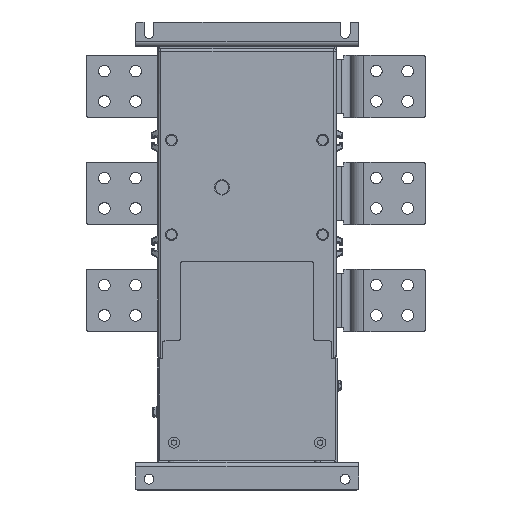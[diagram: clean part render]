
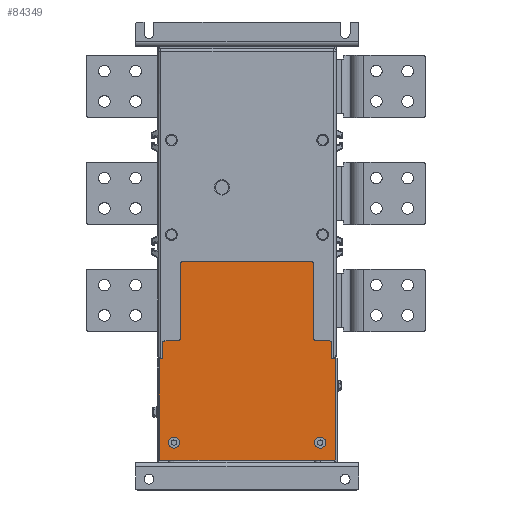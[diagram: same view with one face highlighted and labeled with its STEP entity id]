
A CAD part, top view. The second image highlights one B-rep face of the part: STEP entity #84349.
In plain terms, the highlighted planar face has unit normal (0, 0, 1).
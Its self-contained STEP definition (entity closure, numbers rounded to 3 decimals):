
#81976=DIRECTION('',(0.,-1.,0.));
#81977=VECTOR('',#81976,83.32);
#81978=CARTESIAN_POINT('',(486.803,-164.835,
6.));
#81979=LINE('',#81978,#81977);
#82024=DIRECTION('',(0.,1.,0.));
#82025=VECTOR('',#82024,83.32);
#82026=CARTESIAN_POINT('',(635.992,-248.156,
6.));
#82027=LINE('',#82026,#82025);
#82028=CARTESIAN_POINT('',(489.803,-164.835,
6.));
#82029=DIRECTION('',(0.,0.,-1.));
#82030=DIRECTION('',(-1.,0.,0.));
#82031=AXIS2_PLACEMENT_3D('',#82028,#82029,#82030);
#82033=CARTESIAN_POINT('',(632.992,-164.835,
6.));
#82034=DIRECTION('',(0.,0.,-1.));
#82035=DIRECTION('',(0.,1.,0.));
#82036=AXIS2_PLACEMENT_3D('',#82033,#82034,#82035);
#82038=CARTESIAN_POINT('',(638.992,-248.156,
6.));
#82039=DIRECTION('',(0.,0.,1.));
#82040=DIRECTION('',(-1.,0.,0.));
#82041=AXIS2_PLACEMENT_3D('',#82038,#82039,#82040);
#82043=CARTESIAN_POINT('',(653.498,-253.956,
6.));
#82044=DIRECTION('',(0.,0.,-1.));
#82045=DIRECTION('',(0.,1.,0.));
#82046=AXIS2_PLACEMENT_3D('',#82043,#82044,#82045);
#82048=CARTESIAN_POINT('',(659.148,-384.249,
6.));
#82049=DIRECTION('',(0.,0.,-1.));
#82050=DIRECTION('',(1.,0.,0.));
#82051=AXIS2_PLACEMENT_3D('',#82048,#82049,#82050);
#82053=CARTESIAN_POINT('',(463.648,-384.249,
6.));
#82054=DIRECTION('',(0.,0.,-1.));
#82055=DIRECTION('',(0.,-1.,0.));
#82056=AXIS2_PLACEMENT_3D('',#82053,#82054,#82055);
#82058=CARTESIAN_POINT('',(469.297,-253.956,
6.));
#82059=DIRECTION('',(0.,0.,-1.));
#82060=DIRECTION('',(-1.,0.,0.));
#82061=AXIS2_PLACEMENT_3D('',#82058,#82059,#82060);
#82063=CARTESIAN_POINT('',(483.803,-248.156,
6.));
#82064=DIRECTION('',(0.,0.,1.));
#82065=DIRECTION('',(0.,-1.,0.));
#82066=AXIS2_PLACEMENT_3D('',#82063,#82064,#82065);
#82068=CARTESIAN_POINT('',(479.398,-365.249,
6.));
#82069=DIRECTION('',(0.,0.,1.));
#82070=DIRECTION('',(1.,0.,0.));
#82071=AXIS2_PLACEMENT_3D('',#82068,#82069,#82070);
#82073=CARTESIAN_POINT('',(479.398,-365.249,
6.));
#82074=DIRECTION('',(0.,0.,1.));
#82075=DIRECTION('',(-1.,0.,0.));
#82076=AXIS2_PLACEMENT_3D('',#82073,#82074,#82075);
#82078=CARTESIAN_POINT('',(643.398,-365.249,
6.));
#82079=DIRECTION('',(0.,0.,1.));
#82080=DIRECTION('',(1.,0.,0.));
#82081=AXIS2_PLACEMENT_3D('',#82078,#82079,#82080);
#82083=CARTESIAN_POINT('',(643.398,-365.249,
6.));
#82084=DIRECTION('',(0.,0.,1.));
#82085=DIRECTION('',(-1.,0.,0.));
#82086=AXIS2_PLACEMENT_3D('',#82083,#82084,#82085);
#82096=DIRECTION('',(-1.,0.,0.));
#82097=VECTOR('',#82096,143.189);
#82098=CARTESIAN_POINT('',(632.992,-161.835,
6.));
#82099=LINE('',#82098,#82097);
#82124=DIRECTION('',(-1.,0.,0.));
#82125=VECTOR('',#82124,14.506);
#82126=CARTESIAN_POINT('',(653.498,-251.156,
6.));
#82127=LINE('',#82126,#82125);
#82136=DIRECTION('',(0.,1.,0.));
#82137=VECTOR('',#82136,17.193);
#82138=CARTESIAN_POINT('',(656.298,-271.149,
6.));
#82139=LINE('',#82138,#82137);
#82140=DIRECTION('',(-1.,0.,0.));
#82141=VECTOR('',#82140,3.849);
#82142=CARTESIAN_POINT('',(660.148,-271.149,
6.));
#82143=LINE('',#82142,#82141);
#82160=DIRECTION('',(0.,1.,0.));
#82161=VECTOR('',#82160,113.1);
#82162=CARTESIAN_POINT('',(660.148,-384.249,
6.));
#82163=LINE('',#82162,#82161);
#82363=DIRECTION('',(0.,-1.,0.));
#82364=VECTOR('',#82363,113.1);
#82365=CARTESIAN_POINT('',(462.648,-271.149,
6.));
#82366=LINE('',#82365,#82364);
#82419=DIRECTION('',(-1.,0.,0.));
#82420=VECTOR('',#82419,3.849);
#82421=CARTESIAN_POINT('',(466.497,-271.149,
6.));
#82422=LINE('',#82421,#82420);
#82431=DIRECTION('',(0.,-1.,0.));
#82432=VECTOR('',#82431,17.193);
#82433=CARTESIAN_POINT('',(466.497,-253.956,
6.));
#82434=LINE('',#82433,#82432);
#82451=DIRECTION('',(-1.,0.,0.));
#82452=VECTOR('',#82451,14.506);
#82453=CARTESIAN_POINT('',(483.803,-251.156,
6.));
#82454=LINE('',#82453,#82452);
#82463=DIRECTION('',(1.,0.,0.));
#82464=VECTOR('',#82463,195.5);
#82465=CARTESIAN_POINT('',(463.648,-385.249,
6.));
#82466=LINE('',#82465,#82464);
#83268=CARTESIAN_POINT('',(486.803,-248.156,
6.));
#83269=VERTEX_POINT('',#83268);
#83270=CARTESIAN_POINT('',(483.803,-251.156,
6.));
#83271=VERTEX_POINT('',#83270);
#83276=CARTESIAN_POINT('',(486.803,-164.835,
6.));
#83277=VERTEX_POINT('',#83276);
#83290=CARTESIAN_POINT('',(635.992,-248.156,
6.));
#83291=CARTESIAN_POINT('',(635.992,-164.835,
6.));
#83292=VERTEX_POINT('',#83290);
#83293=VERTEX_POINT('',#83291);
#83294=CARTESIAN_POINT('',(489.803,-161.835,
6.));
#83295=VERTEX_POINT('',#83294);
#83296=CARTESIAN_POINT('',(632.992,-161.835,
6.));
#83297=VERTEX_POINT('',#83296);
#83298=CARTESIAN_POINT('',(638.992,-251.156,
6.));
#83299=VERTEX_POINT('',#83298);
#83300=CARTESIAN_POINT('',(653.498,-251.156,
6.));
#83301=VERTEX_POINT('',#83300);
#83302=CARTESIAN_POINT('',(656.298,-253.956,
6.));
#83303=VERTEX_POINT('',#83302);
#83304=CARTESIAN_POINT('',(656.298,-271.149,
6.));
#83305=VERTEX_POINT('',#83304);
#83306=CARTESIAN_POINT('',(660.148,-271.149,
6.));
#83307=VERTEX_POINT('',#83306);
#83308=CARTESIAN_POINT('',(660.148,-384.249,
6.));
#83309=VERTEX_POINT('',#83308);
#83310=CARTESIAN_POINT('',(659.148,-385.249,
6.));
#83311=VERTEX_POINT('',#83310);
#83312=CARTESIAN_POINT('',(463.648,-385.249,
6.));
#83313=VERTEX_POINT('',#83312);
#83314=CARTESIAN_POINT('',(462.648,-384.249,
6.));
#83315=VERTEX_POINT('',#83314);
#83316=CARTESIAN_POINT('',(462.648,-271.149,
6.));
#83317=VERTEX_POINT('',#83316);
#83318=CARTESIAN_POINT('',(466.497,-271.149,
6.));
#83319=VERTEX_POINT('',#83318);
#83320=CARTESIAN_POINT('',(466.497,-253.956,
6.));
#83321=VERTEX_POINT('',#83320);
#83322=CARTESIAN_POINT('',(469.297,-251.156,
6.));
#83323=VERTEX_POINT('',#83322);
#83324=CARTESIAN_POINT('',(485.648,-365.249,
6.));
#83325=CARTESIAN_POINT('',(473.148,-365.249,
6.));
#83326=VERTEX_POINT('',#83324);
#83327=VERTEX_POINT('',#83325);
#83328=CARTESIAN_POINT('',(649.648,-365.249,
6.));
#83329=CARTESIAN_POINT('',(637.148,-365.249,
6.));
#83330=VERTEX_POINT('',#83328);
#83331=VERTEX_POINT('',#83329);
#84293=CARTESIAN_POINT('',(458.698,-156.497,
6.));
#84294=DIRECTION('',(0.,0.,-1.));
#84295=DIRECTION('',(-1.,0.,0.));
#84296=AXIS2_PLACEMENT_3D('',#84293,#84294,#84295);
#84297=PLANE('',#84296);
#84298=ORIENTED_EDGE('',*,*,#84208,.F.);
#84300=ORIENTED_EDGE('',*,*,#84299,.T.);
#84302=ORIENTED_EDGE('',*,*,#84301,.F.);
#84304=ORIENTED_EDGE('',*,*,#84303,.T.);
#84305=ORIENTED_EDGE('',*,*,#84281,.F.);
#84307=ORIENTED_EDGE('',*,*,#84306,.T.);
#84309=ORIENTED_EDGE('',*,*,#84308,.F.);
#84311=ORIENTED_EDGE('',*,*,#84310,.T.);
#84313=ORIENTED_EDGE('',*,*,#84312,.F.);
#84315=ORIENTED_EDGE('',*,*,#84314,.F.);
#84317=ORIENTED_EDGE('',*,*,#84316,.F.);
#84319=ORIENTED_EDGE('',*,*,#84318,.T.);
#84321=ORIENTED_EDGE('',*,*,#84320,.F.);
#84323=ORIENTED_EDGE('',*,*,#84322,.T.);
#84325=ORIENTED_EDGE('',*,*,#84324,.F.);
#84327=ORIENTED_EDGE('',*,*,#84326,.F.);
#84329=ORIENTED_EDGE('',*,*,#84328,.F.);
#84331=ORIENTED_EDGE('',*,*,#84330,.T.);
#84333=ORIENTED_EDGE('',*,*,#84332,.F.);
#84334=ORIENTED_EDGE('',*,*,#84188,.T.);
#84335=EDGE_LOOP('',(#84298,#84300,#84302,#84304,#84305,#84307,#84309,#84311,
#84313,#84315,#84317,#84319,#84321,#84323,#84325,#84327,#84329,#84331,#84333,
#84334));
#84336=FACE_OUTER_BOUND('',#84335,.F.);
#84338=ORIENTED_EDGE('',*,*,#84337,.T.);
#84340=ORIENTED_EDGE('',*,*,#84339,.T.);
#84341=EDGE_LOOP('',(#84338,#84340));
#84342=FACE_BOUND('',#84341,.F.);
#84344=ORIENTED_EDGE('',*,*,#84343,.T.);
#84346=ORIENTED_EDGE('',*,*,#84345,.T.);
#84347=EDGE_LOOP('',(#84344,#84346));
#84348=FACE_BOUND('',#84347,.F.);
#82032=CIRCLE('',#82031,3.);
#82037=CIRCLE('',#82036,3.);
#82042=CIRCLE('',#82041,3.);
#82047=CIRCLE('',#82046,2.8);
#82052=CIRCLE('',#82051,1.);
#82057=CIRCLE('',#82056,1.);
#82062=CIRCLE('',#82061,2.8);
#82067=CIRCLE('',#82066,3.);
#82072=CIRCLE('',#82071,6.25);
#82077=CIRCLE('',#82076,6.25);
#82082=CIRCLE('',#82081,6.25);
#82087=CIRCLE('',#82086,6.25);
#84188=EDGE_CURVE('',#83271,#83269,#82067,.T.);
#84208=EDGE_CURVE('',#83277,#83269,#81979,.T.);
#84281=EDGE_CURVE('',#83292,#83293,#82027,.T.);
#84299=EDGE_CURVE('',#83277,#83295,#82032,.T.);
#84301=EDGE_CURVE('',#83297,#83295,#82099,.T.);
#84303=EDGE_CURVE('',#83297,#83293,#82037,.T.);
#84306=EDGE_CURVE('',#83292,#83299,#82042,.T.);
#84308=EDGE_CURVE('',#83301,#83299,#82127,.T.);
#84310=EDGE_CURVE('',#83301,#83303,#82047,.T.);
#84312=EDGE_CURVE('',#83305,#83303,#82139,.T.);
#84314=EDGE_CURVE('',#83307,#83305,#82143,.T.);
#84316=EDGE_CURVE('',#83309,#83307,#82163,.T.);
#84318=EDGE_CURVE('',#83309,#83311,#82052,.T.);
#84320=EDGE_CURVE('',#83313,#83311,#82466,.T.);
#84322=EDGE_CURVE('',#83313,#83315,#82057,.T.);
#84324=EDGE_CURVE('',#83317,#83315,#82366,.T.);
#84326=EDGE_CURVE('',#83319,#83317,#82422,.T.);
#84328=EDGE_CURVE('',#83321,#83319,#82434,.T.);
#84330=EDGE_CURVE('',#83321,#83323,#82062,.T.);
#84332=EDGE_CURVE('',#83271,#83323,#82454,.T.);
#84337=EDGE_CURVE('',#83326,#83327,#82072,.T.);
#84339=EDGE_CURVE('',#83327,#83326,#82077,.T.);
#84343=EDGE_CURVE('',#83330,#83331,#82082,.T.);
#84345=EDGE_CURVE('',#83331,#83330,#82087,.T.);
#84349=ADVANCED_FACE('',(#84336,#84342,#84348),#84297,.F.);
